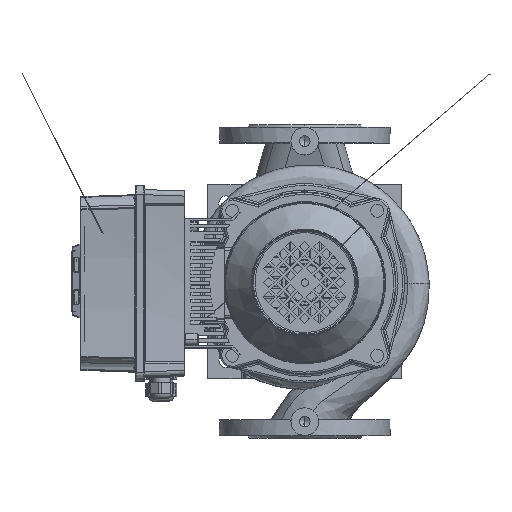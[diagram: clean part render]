
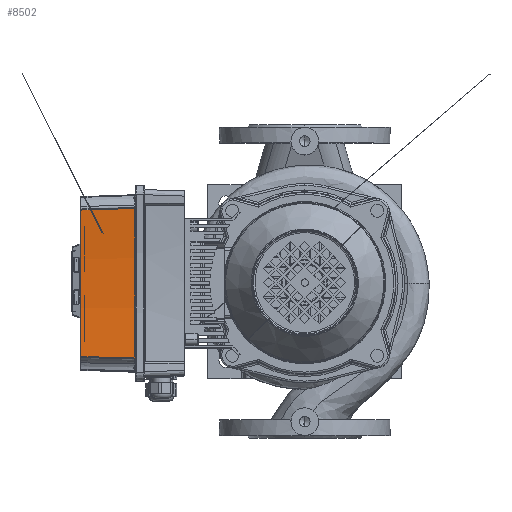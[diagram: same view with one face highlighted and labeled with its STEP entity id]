
A CAD part, top view. The second image highlights one B-rep face of the part: STEP entity #8502.
In plain terms, the highlighted conical face has half-angle 2 degrees and reference radius 845 mm.
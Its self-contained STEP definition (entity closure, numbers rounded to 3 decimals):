
#8502=ADVANCED_FACE('',(#17170),#17171,.F.);
#17170=FACE_OUTER_BOUND('',#38631,.T.);
#17171=CONICAL_SURFACE('',#38632,845.0,0.035);
#38631=EDGE_LOOP('',(#61060,#61061,#61062,#61063));
#38632=AXIS2_PLACEMENT_3D('',#61064,#61065,#61066);
#61060=ORIENTED_EDGE('',*,*,#96048,.F.);
#61061=ORIENTED_EDGE('',*,*,#96103,.F.);
#61062=ORIENTED_EDGE('',*,*,#96064,.F.);
#61063=ORIENTED_EDGE('',*,*,#96092,.F.);
#61064=CARTESIAN_POINT('',(-110.0,1132.065,60.0));
#61065=DIRECTION('',(0.,-0.0,-1.0));
#61066=DIRECTION('',(1.0,0.0,0.));
#96048=EDGE_CURVE('',#125049,#125055,#125056,.T.);
#96064=EDGE_CURVE('',#125076,#125068,#125078,.T.);
#96092=EDGE_CURVE('',#125055,#125076,#125108,.T.);
#96103=EDGE_CURVE('',#125068,#125049,#125120,.T.);
#125049=VERTEX_POINT('',#152071);
#125055=VERTEX_POINT('',#152113);
#125056=B_SPLINE_CURVE_WITH_KNOTS('',3,(#152114,#152115,#152116,#152117,#152118,#152119,#152120,#152121,#152122,#152123,#152124,#152125,#152126,#152127,#152128,#152129,#152130,#152131,#152132,#152133,#152134,#152135,#152136,#152137,#152138),.UNSPECIFIED.,.F.,.F.,(4,3,3,3,3,3,3,3,4),(-60.14,-51.629,-41.43,-35.057,-31.073,-27.089,-20.715,-10.517,-2.006),.UNSPECIFIED.);
#125068=VERTEX_POINT('',#152227);
#125076=VERTEX_POINT('',#152288);
#125078=B_SPLINE_CURVE_WITH_KNOTS('',3,(#152303,#152304,#152305,#152306,#152307,#152308,#152309,#152310,#152311,#152312,#152313,#152314,#152315,#152316,#152317,#152318,#152319,#152320,#152321,#152322,#152323,#152324,#152325,#152326,#152327),.UNSPECIFIED.,.F.,.F.,(4,3,3,3,3,3,3,3,4),(2.006,10.517,20.716,27.09,31.073,35.057,41.431,51.63,60.14),.UNSPECIFIED.);
#125108=CIRCLE('',#152518,847.062);
#125120=CIRCLE('',#152546,845.034);
#152071=CARTESIAN_POINT('',(-190.987,290.921,59.035));
#152113=CARTESIAN_POINT('',(-189.365,288.73,0.965));
#152114=CARTESIAN_POINT('',(-190.987,290.921,59.035));
#152115=CARTESIAN_POINT('',(-190.902,290.814,56.201));
#152116=CARTESIAN_POINT('',(-190.819,290.706,53.368));
#152117=CARTESIAN_POINT('',(-190.736,290.599,50.534));
#152118=CARTESIAN_POINT('',(-190.637,290.47,47.138));
#152119=CARTESIAN_POINT('',(-190.539,290.342,43.743));
#152120=CARTESIAN_POINT('',(-190.442,290.214,40.347));
#152121=CARTESIAN_POINT('',(-190.381,290.133,38.225));
#152122=CARTESIAN_POINT('',(-190.321,290.053,36.103));
#152123=CARTESIAN_POINT('',(-190.261,289.973,33.98));
#152124=CARTESIAN_POINT('',(-190.224,289.923,32.654));
#152125=CARTESIAN_POINT('',(-190.187,289.873,31.327));
#152126=CARTESIAN_POINT('',(-190.15,289.823,30.001));
#152127=CARTESIAN_POINT('',(-190.113,289.773,28.675));
#152128=CARTESIAN_POINT('',(-190.076,289.723,27.348));
#152129=CARTESIAN_POINT('',(-190.04,289.673,26.022));
#152130=CARTESIAN_POINT('',(-189.981,289.593,23.899));
#152131=CARTESIAN_POINT('',(-189.923,289.513,21.777));
#152132=CARTESIAN_POINT('',(-189.865,289.433,19.655));
#152133=CARTESIAN_POINT('',(-189.772,289.305,16.259));
#152134=CARTESIAN_POINT('',(-189.681,289.177,12.863));
#152135=CARTESIAN_POINT('',(-189.59,289.049,9.467));
#152136=CARTESIAN_POINT('',(-189.515,288.943,6.633));
#152137=CARTESIAN_POINT('',(-189.44,288.836,3.799));
#152138=CARTESIAN_POINT('',(-189.365,288.73,0.965));
#152227=CARTESIAN_POINT('',(-29.013,290.921,59.035));
#152288=CARTESIAN_POINT('',(-30.635,288.73,0.965));
#152303=CARTESIAN_POINT('',(-30.635,288.73,0.965));
#152304=CARTESIAN_POINT('',(-30.56,288.836,3.799));
#152305=CARTESIAN_POINT('',(-30.485,288.943,6.633));
#152306=CARTESIAN_POINT('',(-30.41,289.049,9.467));
#152307=CARTESIAN_POINT('',(-30.319,289.177,12.863));
#152308=CARTESIAN_POINT('',(-30.228,289.305,16.259));
#152309=CARTESIAN_POINT('',(-30.135,289.433,19.654));
#152310=CARTESIAN_POINT('',(-30.077,289.513,21.777));
#152311=CARTESIAN_POINT('',(-30.019,289.593,23.899));
#152312=CARTESIAN_POINT('',(-29.96,289.673,26.022));
#152313=CARTESIAN_POINT('',(-29.924,289.723,27.348));
#152314=CARTESIAN_POINT('',(-29.887,289.773,28.674));
#152315=CARTESIAN_POINT('',(-29.85,289.823,30.001));
#152316=CARTESIAN_POINT('',(-29.813,289.873,31.327));
#152317=CARTESIAN_POINT('',(-29.776,289.923,32.654));
#152318=CARTESIAN_POINT('',(-29.739,289.973,33.98));
#152319=CARTESIAN_POINT('',(-29.679,290.053,36.103));
#152320=CARTESIAN_POINT('',(-29.619,290.133,38.225));
#152321=CARTESIAN_POINT('',(-29.558,290.214,40.347));
#152322=CARTESIAN_POINT('',(-29.461,290.342,43.743));
#152323=CARTESIAN_POINT('',(-29.363,290.47,47.139));
#152324=CARTESIAN_POINT('',(-29.264,290.599,50.534));
#152325=CARTESIAN_POINT('',(-29.181,290.706,53.368));
#152326=CARTESIAN_POINT('',(-29.098,290.814,56.201));
#152327=CARTESIAN_POINT('',(-29.013,290.921,59.035));
#152518=AXIS2_PLACEMENT_3D('',#181956,#181957,#181958);
#152546=AXIS2_PLACEMENT_3D('',#181968,#181969,#181970);
#181956=CARTESIAN_POINT('',(-110.0,1132.065,0.965));
#181957=DIRECTION('',(0.,0.,1.0));
#181958=DIRECTION('',(0.0,-1.0,0.));
#181968=CARTESIAN_POINT('',(-110.0,1132.065,59.035));
#181969=DIRECTION('',(-0.0,-0.0,-1.0));
#181970=DIRECTION('',(0.0,-1.0,0.0));
